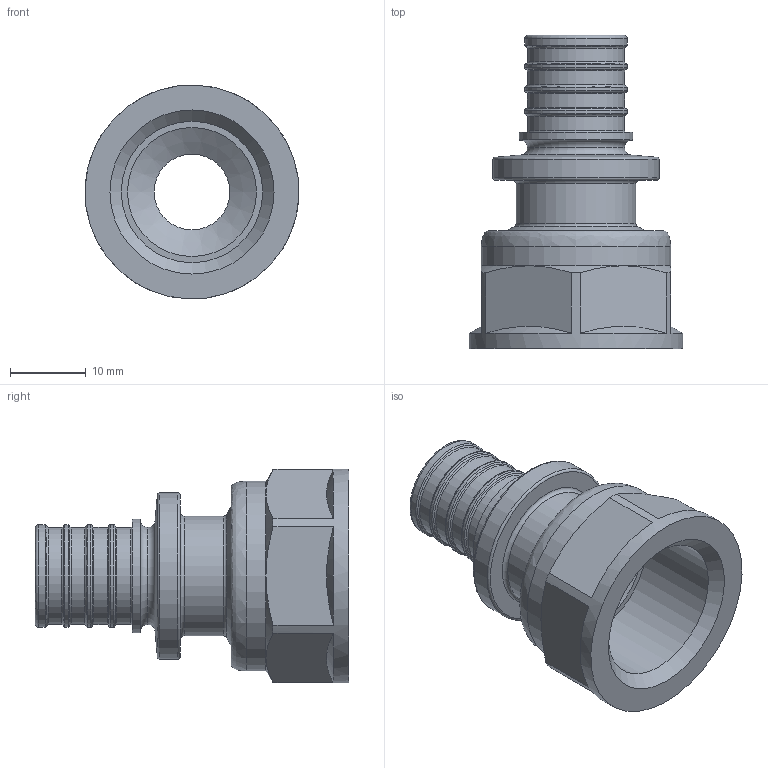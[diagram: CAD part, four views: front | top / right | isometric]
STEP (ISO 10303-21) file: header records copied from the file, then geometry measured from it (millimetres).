
FILE_DESCRIPTION(('STEP AP203'), '1');
FILE_NAME('ﾂﾐ.753124.004 - VTm.402.G.001604 ﾔ頸. 浯葢. G 1-2', '2024-01-23T13:15:01', ('IT'), ('VESTA'), 'C3D Converter', 'C3D Toolkit', '');
FILE_SCHEMA(('CONFIG_CONTROL_DESIGN'));
Length unit declared in the file: millimetre
Products named in the file (1): ВР.753124.004
Bounding box: 28.2 x 41.3 x 28.2 mm (x, y, z)
Volume: 7013.1 mm3; surface area: 5450.6 mm2
Topology: 1 solids, 1 shells, 68 faces, 142 edges, 81 vertices
Faces by surface type: torus 22, cone 17, cylinder 15, plane 13, bspline 1
Full cylindrical faces by diameter (mm): 10 x1, 12.8 x4, 13.5 x4, 15 x1, 15.8 x1, 18.632 x1, 21.9 x1, 25 x1, 28.2 x1
Entity records: 2267 total; most frequent: CARTESIAN_POINT 948, DIRECTION 286, ORIENTED_EDGE 198, AXIS2_PLACEMENT_3D 137, EDGE_LOOP 118, EDGE_CURVE 99, FACE_OUTER_BOUND 82, VERTEX_POINT 81
